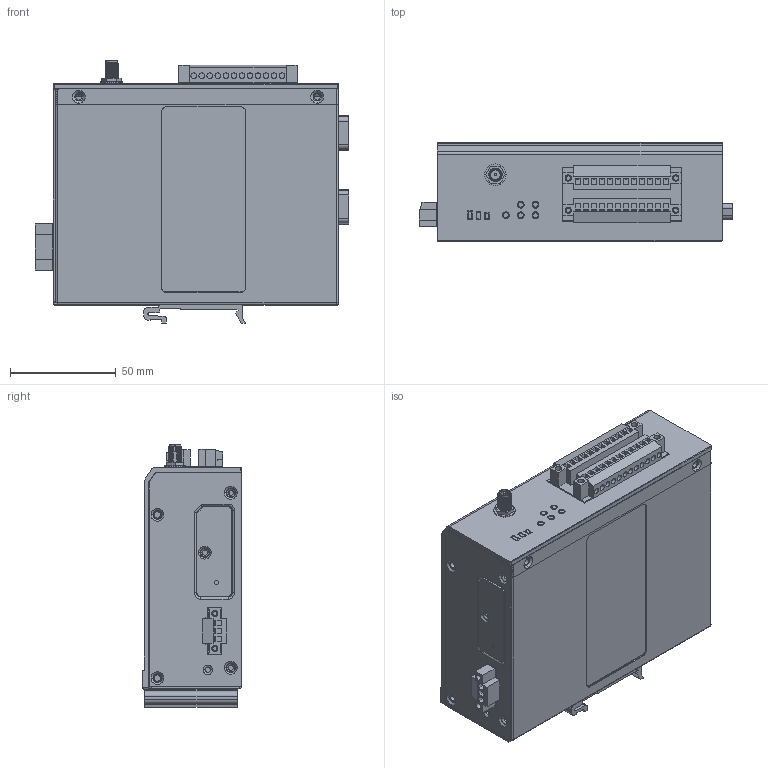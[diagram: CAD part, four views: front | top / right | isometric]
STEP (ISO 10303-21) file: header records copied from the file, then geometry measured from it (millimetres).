
FILE_DESCRIPTION((''),'2;1');
FILE_NAME('IOLOGIK_W5348_ASM','2012-01-05T',('Vincent_Huang'),(''),'PRO/ENGINEER BY PARAMETRIC TECHNOLOGY CORPORATION, 2004320','PRO/ENGINEER BY PARAMETRIC TECHNOLOGY CORPORATION, 2004320','');
FILE_SCHEMA(('CONFIG_CONTROL_DESIGN'));
Length unit declared in the file: millimetre
Products named in the file (26): PCB_AF0; 1126005080600_RJ45_8P8C; 1111_ECH381R_3P-GY; 1111_ECH381R_12P-GY; 1126004090100_DB9_FM90D; SMA-JACK-CRIMP19__AF0; 1126024000000_SD_ABOVE_AF0; SIMCONN_BOT; E2340_TOP_PCB; E2340_TOP_PCB_ASM; 1106999999200_LED_GREEN3MM_2X1; 1106999999200_LED_GREEN3MM__AF0; 1106999999200_LED_GREEN3MM__AF1; 1106999999200_LED_GREEN3MM__AF2; 1111_TB_3P_; 1109000021100_TACT_SWITCH; 1126001104100_HR_DIP90M_1X4; E2340_PCB_ASM; W5340_BOT; E5340_TOP; W5340_RIGHT_COVER; SD_CONN_DOOR_NP6250; LIGHT_PIPE; DIN_RAIL_KIT; 1111_TB_12P; IOLOGIK_W5348_ASM
Assembly tree (31 placements, depth 4):
  IOLOGIK_W5348_ASM
    E2340_PCB_ASM
      PCB_AF0
      1126005080600_RJ45_8P8C
      1111_ECH381R_3P-GY
      1111_ECH381R_12P-GY
      1126004090100_DB9_FM90D  x2
      SMA-JACK-CRIMP19__AF0
      1126024000000_SD_ABOVE_AF0
      SIMCONN_BOT
      E2340_TOP_PCB_ASM
        E2340_TOP_PCB
      1106999999200_LED_GREEN3MM_2X1  x3
      1106999999200_LED_GREEN3MM__AF0
      1106999999200_LED_GREEN3MM__AF1
      1106999999200_LED_GREEN3MM__AF2
      1111_TB_3P_
      1109000021100_TACT_SWITCH  x2
      1126001104100_HR_DIP90M_1X4  x2
    W5340_BOT
    E5340_TOP
    W5340_RIGHT_COVER
    SD_CONN_DOOR_NP6250
    LIGHT_PIPE
    DIN_RAIL_KIT
    1111_TB_12P  x2
Bounding box: 148.6 x 46.8 x 124.6 mm (x, y, z)
Volume: 171960.6 mm3; surface area: 186370 mm2
Topology: 59 solids, 59 shells, 2837 faces, 7069 edges, 4595 vertices
Faces by surface type: plane 1782, cylinder 880, bspline 61, cone 60, torus 54
Entity records: 83825 total; most frequent: CARTESIAN_POINT 24833, DIRECTION 12243, ORIENTED_EDGE 11924, EDGE_CURVE 5962, VECTOR 4161, LINE 4161, AXIS2_PLACEMENT_3D 4041, VERTEX_POINT 3869
